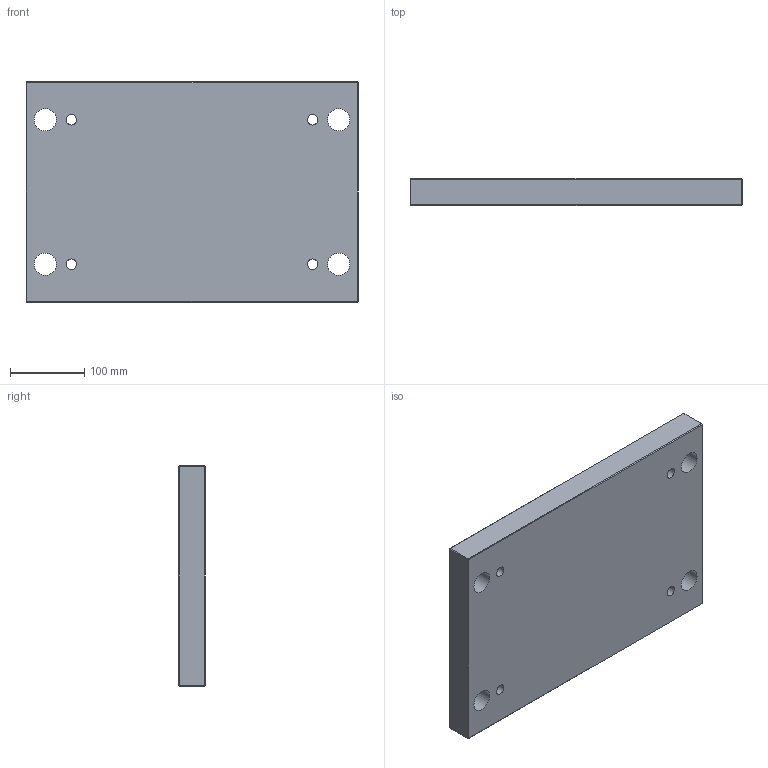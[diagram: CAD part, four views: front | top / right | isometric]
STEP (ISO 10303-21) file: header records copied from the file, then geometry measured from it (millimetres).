
FILE_DESCRIPTION(/* description */ ('STEP AP214'),/* implementation_level */ '2;1');
FILE_NAME(/* name */ 'KM0102464460361730',/* time_stamp */ '2026-06-18T11:50:08+02:00',/* author */ ('License CC BY-ND 4.0'),/* organization */ ('CADENAS'),/* preprocessor_version */ 'ST-DEVELOPER v20',/* originating_system */ 'PARTsolutions',/* authorisation */ ' ');
FILE_SCHEMA (('AUTOMOTIVE_DESIGN {1 0 10303 214 3 1 1}'));
Length unit declared in the file: millimetre
Products named in the file (1): KM0102464460361730
Bounding box: 446 x 36 x 296 mm (x, y, z)
Volume: 4591690.7 mm3; surface area: 330950 mm2
Topology: 1 solids, 1 shells, 36 faces, 87 edges, 58 vertices
Faces by surface type: plane 23, cylinder 13
Full cylindrical faces by diameter (mm): 14 x4, 20 x4, 30 x4, 90 x1
Entity records: 1054 total; most frequent: DIRECTION 174, CARTESIAN_POINT 169, ORIENTED_EDGE 148, EDGE_CURVE 74, EDGE_LOOP 70, FACE_BOUND 70, AXIS2_PLACEMENT_3D 63, VERTEX_POINT 58
